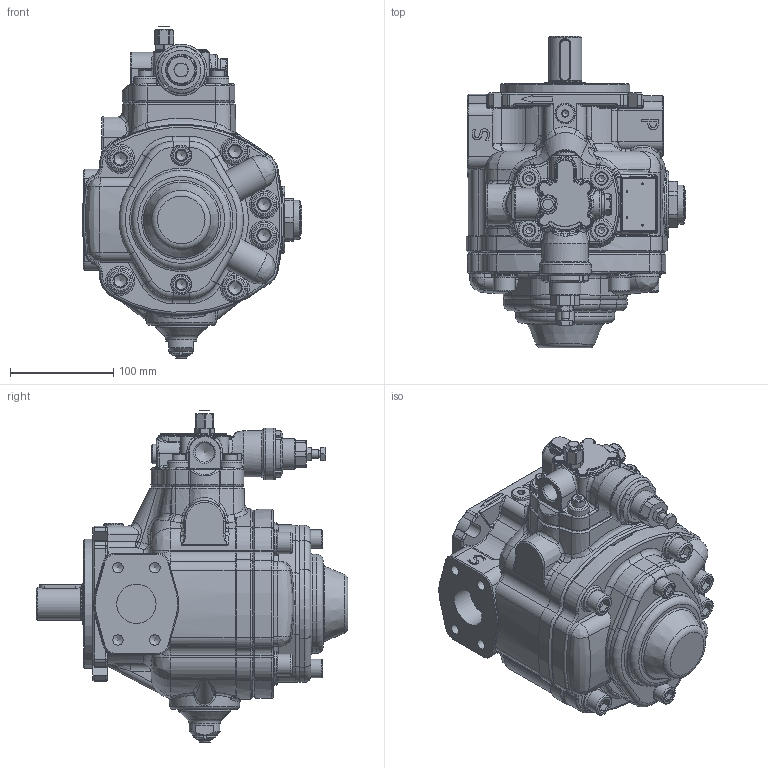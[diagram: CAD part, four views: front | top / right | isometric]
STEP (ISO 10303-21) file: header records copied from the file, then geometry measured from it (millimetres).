
FILE_DESCRIPTION(/* description */ (''),/* implementation_level */ '2;1');
FILE_NAME(/* name */ 'W:\Tecnico\Archivio\Dimensioni Pompe\3D Export\PHP\01 PHP 2 FHRMA PCS006.stp',/* time_stamp */ '2020-08-31T10:00:53+02:00',/* author */ ('marcop'),/* organization */ (''),/* preprocessor_version */ 'ST-DEVELOPER v17',/* originating_system */ 'Autodesk Inventor 2018',/* authorisation */ '');
FILE_SCHEMA (('AUTOMOTIVE_DESIGN { 1 0 10303 214 3 1 1 }'));
Products named in the file (1): PLP - PHP 2_Shrinkwrap_1
Bounding box: 212.17 x 301.5 x 321.1 mm (x, y, z)
Volume: 4689806.8 mm3; surface area: 442610.4 mm2
Topology: 2 solids, 2 shells, 2009 faces, 5033 edges, 3080 vertices
Faces by surface type: plane 593, cylinder 507, bspline 430, torus 246, cone 199, sphere 34
Full cylindrical faces by diameter (mm): 1.7 x4, 2.5 x3, 3 x1, 6.5 x1, 6.917 x1, 7 x1, 8 x2, 8.376 x4, 10 x1, 10.106 x4, 12 x2, 13 x4, 13.6 x2, 14 x1, 15.5 x1, 18 x2, 18.631 x1, 19 x4, 20 x4, 21 x6, 23 x1, 25 x7, 28 x1, 30 x4, 31.5 x1, 32 x1, 35 x1, 38 x2, 40 x4, 44 x3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
Entity records: 76157 total; most frequent: CARTESIAN_POINT 28781, ORIENTED_EDGE 9950, DIRECTION 8982, EDGE_CURVE 4975, AXIS2_PLACEMENT_3D 3660, VERTEX_POINT 3080, EDGE_LOOP 2123, CIRCLE 2027
